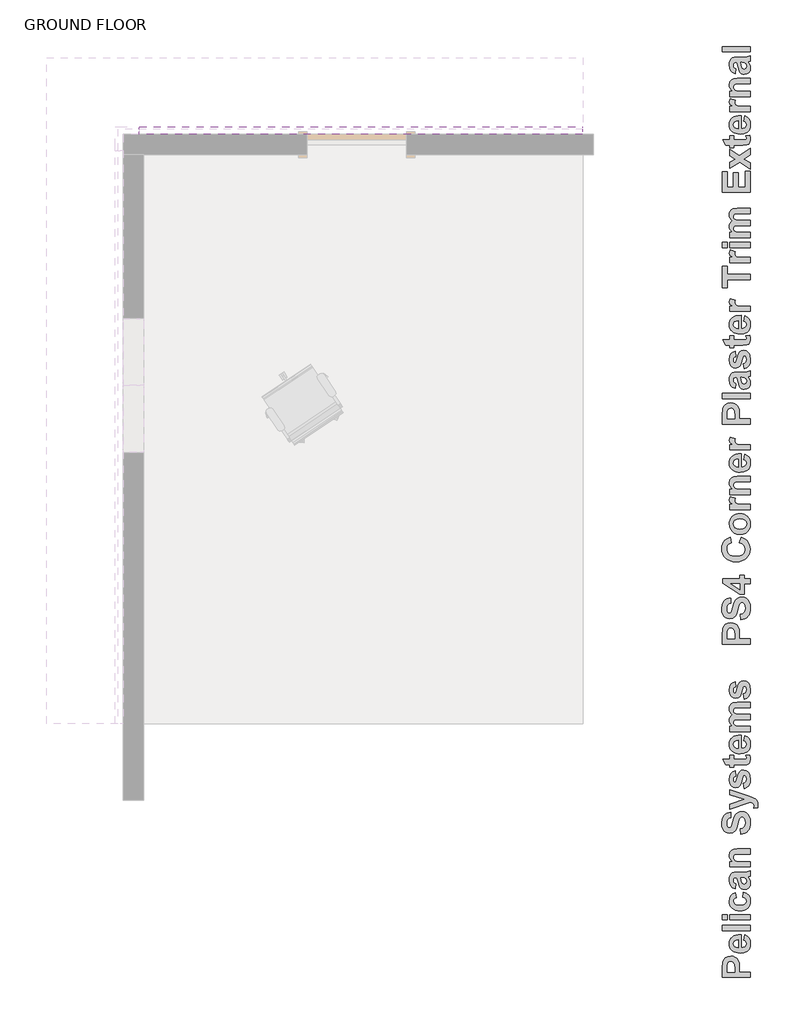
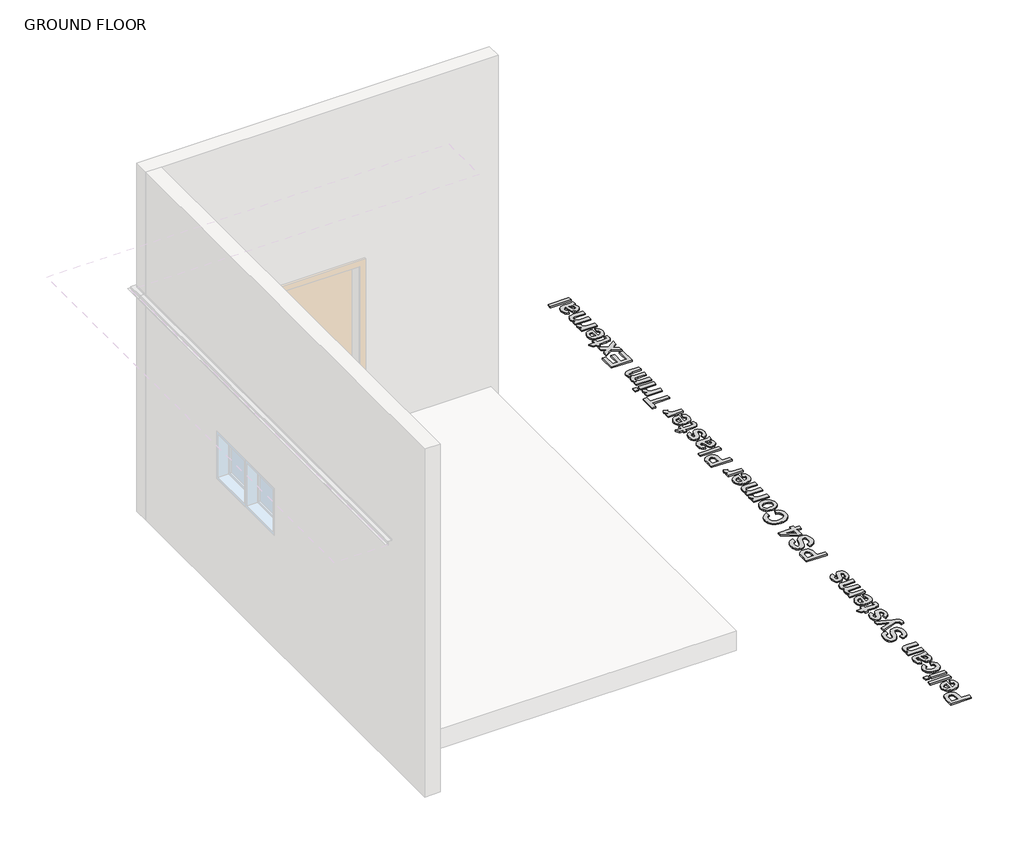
# One storey, part 2 of 2: 2 proxies.
"""IFC4 building model written with IfcOpenShell, lengths in millimetres."""

from ifc_helpers import new_model, si_unit, frame, origin, origin_with_axes, place, context, project, spatial, polyline, outline, extrude, element, save

model = new_model("IFC4")

# Units and contexts
model_context = context("Model", 3, world=origin())
ifc_project = project(units=[si_unit("LENGTHUNIT", "METRE", prefix="MILLI")], contexts=[model_context])

# Site, building, storey
site = spatial("IfcSite", under=ifc_project)
building = spatial("IfcBuilding", under=site)
storey = spatial("IfcBuildingStorey", under=building, Name="GROUND FLOOR", Elevation=0.0)

# Proxies
placement = place(None, origin())
element("IfcBuildingElementProxy", 1, Name="600mm Arial", ObjectType="600mm Arial", at=placement, inside=storey, context=model_context, shape_type="SweptSolid", body=[
    extrude(outline(polyline([(133497.7515303, 57588.5596096), (133242.6866803, 57588.5596096), (133242.6866803, 57670.7345204), (133246.4822882, 57731.6540269), (133255.5363945, 57751.6995811), (133271.3118898, 57768.1867528), (133293.2236178, 57779.2177383), (133320.6864224, 57782.8947334), (133342.1711446, 57780.7359814), (133359.939334, 57774.2597255), (133374.1412335, 57764.4544051), (133384.9270859, 57752.3084599), (133396.9781409, 57725.2647537), (133400.5839684, 57671.1773413), (133400.5839684, 57637.1433906), (133497.7515303, 57637.1433906), (133497.7515303, 57588.5596096)]), holes=[polyline([(133287.2218129, 57637.1433906), (133356.0488359, 57637.1433906), (133356.0488359, 57667.3184733), (133352.253228, 57710.8730738), (133340.3286932, 57728.0798295), (133331.5434425, 57732.7531717), (133321.445544, 57734.3109525), (133309.3786739, 57732.1205704), (133299.6207986, 57725.5494243), (133292.6305541, 57715.6413062), (133288.8665763, 57703.4400083), (133287.2218129, 57663.7759059), (133287.2218129, 57637.1433906)])]), origin_with_axes(), (0.0, 0.0, 1.0), 15.0),
    extrude(outline(polyline([(133441.0704526, 57928.6460763), (133449.1677494, 57977.2298572), (133471.838599, 57965.4002126), (133488.3574008, 57948.256717), (133498.4394843, 57925.9733357), (133501.8001787, 57898.7240341), (133499.8193459, 57876.7213696), (133493.8768473, 57857.778914), (133483.9726829, 57841.8966673), (133470.1068529, 57829.0746294), (133441.4025682, 57815.6951116), (133406.0243397, 57811.2352723), (133384.1837794, 57812.7139779), (133364.8419942, 57817.1500946), (133347.9989842, 57824.5436224), (133333.6547494, 57834.8945615), (133322.196758, 57847.5070502), (133314.0124785, 57861.6852271), (133309.1019108, 57877.4290923), (133307.4650549, 57894.7386458), (133309.1454022, 57913.9736795), (133314.1864439, 57931.0657763), (133322.5881801, 57946.0149361), (133334.3506108, 57958.821159), (133349.5844412, 57969.0258089), (133368.4003766, 57976.17025), (133390.7984168, 57980.2544822), (133416.7785621, 57981.2785056), (133416.7785621, 57859.8190532), (133437.2432146, 57862.9346147), (133452.5837965, 57871.269137), (133462.1677064, 57883.5574176), (133465.362343, 57898.5342537), (133463.923175, 57908.7349499), (133459.6056711, 57917.1959925), (133452.0935305, 57923.8541213), (133441.0704526, 57928.6460763)]), holes=[polyline([(133388.4380232, 57932.6947247), (133369.2306658, 57929.7373135), (133355.2580842, 57921.8772422), (133346.7416891, 57910.4587885), (133343.9028907, 57896.8262301), (133346.8919319, 57882.4345502), (133355.8590555, 57870.763056), (133370.0135099, 57863.1085801), (133388.4380232, 57860.641435), (133388.4380232, 57932.6947247)])]), origin_with_axes(), (0.0, 0.0, 1.0), 15.0),
    extrude(outline(polyline([(133497.7515303, 58017.7163413), (133242.6866803, 58017.7163413), (133242.6866803, 58066.3001223), (133497.7515303, 58066.3001223), (133497.7515303, 58017.7163413)])), origin_with_axes(), (0.0, 0.0, 1.0), 15.0),
    extrude(outline(polyline([(133287.2218129, 58114.8839032), (133242.6866803, 58114.8839032), (133242.6866803, 58163.4676842), (133287.2218129, 58163.4676842), (133287.2218129, 58114.8839032)])), origin_with_axes(), (0.0, 0.0, 1.0), 15.0),
    extrude(outline(polyline([(133497.7515303, 58114.8839032), (133311.5137034, 58114.8839032), (133311.5137034, 58163.4676842), (133497.7515303, 58163.4676842), (133497.7515303, 58114.8839032)])), origin_with_axes(), (0.0, 0.0, 1.0), 15.0),
    extrude(outline(polyline([(133364.1461327, 58365.9001048), (133372.2434295, 58317.3163239), (133359.8839814, 58313.5918836), (133351.0196554, 58306.9732924), (133345.6820818, 58297.6977756), (133343.9028907, 58286.0025588), (133347.2398626, 58270.5987168), (133357.2507784, 58258.674182), (133375.0743204, 58251.0355211), (133401.8491711, 58248.4893008), (133431.5339877, 58251.1383189), (133451.0022932, 58259.0853729), (133461.7723306, 58271.4922661), (133465.362343, 58287.5208019), (133463.3142963, 58299.6588397), (133457.170156, 58309.3771774), (133446.0126503, 58316.6283699), (133428.9245073, 58321.3649723), (133437.0218041, 58369.9487532), (133465.1646551, 58359.3131436), (133485.4474348, 58341.9561451), (133497.7119927, 58317.7196072), (133501.8001787, 58286.4453797), (133500.1909991, 58267.6788663), (133495.3634604, 58250.9169084), (133487.3175624, 58236.1595059), (133476.0533052, 58223.4066587), (133461.9462959, 58213.1249105), (133445.3721415, 58205.7808046), (133426.3308419, 58201.3743411), (133404.8223972, 58199.9055199), (133383.0707964, 58201.3644567), (133363.8693696, 58205.741267), (133347.2181169, 58213.0359509), (133333.1170382, 58223.2485084), (133321.8942955, 58235.9519335), (133313.8780508, 58250.7192205), (133309.0683039, 58267.5503692), (133307.4650549, 58286.4453797), (133310.9680847, 58315.6873755), (133321.4771741, 58338.2554274), (133339.1504733, 58354.7821367), (133364.1461327, 58365.9001048)])), origin_with_axes(), (0.0, 0.0, 1.0), 15.0),
    extrude(outline(polyline([(133368.1947811, 58446.8730731), (133360.0974843, 58402.3379405), (133336.7544958, 58411.9930181), (133320.3701218, 58426.7879813), (133310.6913216, 58448.3517786), (133307.4650549, 58478.3133584), (133309.4182115, 58505.4045097), (133315.2776812, 58524.5565145), (133324.1340996, 58537.4932114), (133335.0781023, 58545.9384389), (133352.0871702, 58550.5880586), (133379.1387839, 58552.1379318), (133436.5789832, 58552.1379318), (133472.7637784, 58554.6999671), (133497.7515303, 58564.283877), (133497.7515303, 58515.7000961), (133482.3160583, 58511.1453666), (133476.1798255, 58509.4373431), (133495.3792754, 58483.437429), (133500.1949529, 58469.1248243), (133501.8001787, 58453.8949477), (133497.9017731, 58429.1206987), (133486.2065563, 58410.2138269), (133468.5648872, 58398.2339395), (133446.8271245, 58394.2406437), (133431.9293636, 58396.0198349), (133418.7396262, 58401.3574085), (133407.8430685, 58409.9054337), (133399.8248469, 58421.31598), (133388.3747631, 58458.3231569), (133376.292078, 58503.5541508), (133371.1680073, 58503.5541508), (133358.5476111, 58502.0438152), (133350.1656437, 58497.5128083), (133345.4685789, 58488.8066327), (133343.9028907, 58474.770791), (133345.2471684, 58464.6966151), (133349.2800018, 58457.1212144), (133368.1947811, 58446.8730731)]), holes=[polyline([(133412.7299137, 58503.5541508), (133419.4671177, 58476.1625139), (133427.1532236, 58451.6175829), (133434.064393, 58445.0227142), (133442.6519558, 58442.8244246), (133451.2632412, 58444.5878008), (133458.625139, 58449.8779293), (133463.678042, 58457.8882434), (133465.362343, 58467.8121766), (133463.401279, 58479.7208963), (133457.5180867, 58491.0286448), (133442.9682565, 58501.7828672), (133421.5230719, 58503.5541508), (133412.7299137, 58503.5541508)])]), origin_with_axes(), (0.0, 0.0, 1.0), 15.0),
    extrude(outline(polyline([(133497.7515303, 58766.7162977), (133497.7515303, 58718.1325167), (133402.0389515, 58718.1325167), (133362.6911497, 58715.0960304), (133348.8371809, 58705.1641898), (133343.9028907, 58688.6532954), (133345.6662668, 58676.8948185), (133350.9563953, 58666.4173592), (133359.1643974, 58658.130282), (133369.6813942, 58652.9429512), (133412.7931738, 58649.3054937), (133497.7515303, 58649.3054937), (133497.7515303, 58600.7217127), (133311.5137034, 58600.7217127), (133311.5137034, 58649.3054937), (133338.3359991, 58649.3054937), (133324.829961, 58661.597728), (133315.182791, 58675.3844829), (133309.3944889, 58690.6657584), (133307.4650549, 58707.4415545), (133313.3482472, 58735.6555731), (133328.3408983, 58755.0131733), (133348.9953312, 58764.1542623), (133382.11201, 58766.7162977), (133497.7515303, 58766.7162977)])), origin_with_axes(), (0.0, 0.0, 1.0), 15.0),
    extrude(outline(polyline([(133412.7299137, 58900.3216953), (133408.6812653, 58948.9054762), (133430.4111204, 58955.9906109), (133445.4986618, 58967.8835156), (133454.3234501, 58984.6632655), (133457.2650462, 59006.4089357), (133454.6634733, 59028.9769876), (133446.8587546, 59045.1873963), (133435.5747286, 59054.9610866), (133422.535234, 59058.2189834), (133407.3211724, 59052.8102421), (133396.4087998, 59033.8638327), (133385.5913173, 58991.7325852), (133374.410089, 58955.7692005), (133360.7300856, 58932.3945819), (133337.4345422, 58914.4128895), (133309.5526393, 58908.4189921), (133290.7643802, 58911.1708078), (133273.2413238, 58919.426255), (133258.3593779, 58932.8690329), (133247.4944503, 58951.1828409), (133240.8521365, 58974.0671935), (133238.6380319, 59001.2216049), (133244.1574784, 59043.1867946), (133251.0567865, 59059.7273421), (133260.7158178, 59073.3065247), (133272.6759364, 59083.9678337), (133286.4785063, 59091.7547605), (133302.1235276, 59096.6673051), (133319.6110002, 59098.7054675), (133319.6110002, 59050.1216865), (133302.918233, 59044.7524829), (133291.6816521, 59035.4769661), (133285.3002864, 59021.4411244), (133283.1731645, 59001.7909461), (133285.4347142, 58981.1048831), (133292.2193633, 58965.4796307), (133299.0198274, 58959.1219874), (133307.7813556, 58957.002773), (133316.0526178, 58958.932207), (133323.0270473, 58964.7205091), (133331.1955117, 58981.5239815), (133339.6328318, 59012.323758), (133348.410175, 59045.1953038), (133357.5987091, 59068.2140841), (133368.7245847, 59084.3454176), (133383.3139525, 59096.554623), (133401.5486854, 59104.240729), (133423.6106563, 59106.8027643), (133444.67628, 59103.7741855), (133464.3501809, 59094.6884491), (133480.8927053, 59080.0595437), (133492.5641995, 59060.4014579), (133499.4911839, 59035.5006886), (133501.8001787, 59005.1437331), (133500.3788027, 58982.4412534), (133496.1146744, 58962.5380345), (133489.007794, 58945.4340765), (133479.0581615, 58931.1293793), (133466.3843895, 58919.5250989), (133451.1050909, 58910.5223915), (133433.2202656, 58904.1212569), (133412.7299137, 58900.3216953)])), origin_with_axes(), (0.0, 0.0, 1.0), 15.0),
    extrude(outline(polyline([(133311.5137034, 59127.0460064), (133311.5137034, 59175.6297873), (133443.3478173, 59218.1405956), (133311.5137034, 59260.651404), (133311.5137034, 59309.2351849), (133489.9705342, 59246.228094), (133523.118843, 59234.5249697), (133546.7148721, 59222.9799957), (133559.9362395, 59210.3595995), (133567.8121259, 59192.804913), (133570.6272018, 59169.3037742), (133567.843756, 59143.2406), (133531.8487412, 59139.1919516), (133534.189366, 59158.4862917), (133531.6194232, 59172.2532778), (133523.9095947, 59181.9241704), (133497.7515303, 59193.5956646), (133311.5137034, 59127.0460064)])), origin_with_axes(), (0.0, 0.0, 1.0), 15.0),
    extrude(outline(polyline([(133445.119101, 59317.3324818), (133437.0218041, 59365.9162627), (133449.2626396, 59370.5421598), (133458.150688, 59378.3468785), (133463.5594293, 59389.5992744), (133465.362343, 59404.568203), (133463.6385044, 59420.8102418), (133458.4669887, 59432.465921), (133452.836837, 59437.2104308), (133445.5619219, 59438.7919341), (133436.452463, 59435.4391472), (133430.0631897, 59419.5608542), (133417.6325739, 59372.6376517), (133406.2773803, 59346.7484429), (133388.2956879, 59330.7594447), (133364.4624334, 59325.4297786), (133342.2739423, 59330.0003231), (133323.9126891, 59343.7119566), (133311.5769635, 59367.03913), (133307.4650549, 59400.4562945), (133310.7862118, 59432.3235857), (133320.7496825, 59454.7967474), (133337.2289468, 59469.8052136), (133360.0974843, 59479.2784183), (133368.1947811, 59430.6946373), (133357.8043045, 59427.1204399), (133350.1656437, 59421.3321379), (133345.4685789, 59412.9818005), (133343.9028907, 59401.7214971), (133345.2313534, 59387.8833433), (133349.2167417, 59378.6315491), (133359.0853222, 59374.0135595), (133367.8784805, 59378.6315491), (133381.4794087, 59421.6168084), (133391.3005441, 59452.8435908), (133403.1776338, 59472.9524051), (133418.8503314, 59483.7698876), (133439.6787297, 59487.3757151), (133463.3775564, 59482.1488467), (133483.4863707, 59466.4682416), (133491.4986617, 59454.7591867), (133497.2217267, 59440.5394953), (133501.8001787, 59404.568203), (133497.9887558, 59371.2538363), (133486.5544871, 59345.7046507), (133468.5727947, 59327.778311), (133445.119101, 59317.3324818)])), origin_with_axes(), (0.0, 0.0, 1.0), 15.0),
    extrude(outline(polyline([(133311.5137034, 59620.9811127), (133347.9515391, 59620.9811127), (133347.9515391, 59584.543277), (133427.8490851, 59584.543277), (133456.0947338, 59585.6503293), (133462.7370476, 59590.6795097), (133465.362343, 59600.2317896), (133460.6810933, 59623.0054369), (133495.2211251, 59625.0297611), (133500.1554153, 59606.2889472), (133501.8001787, 59585.2391384), (133497.2454493, 59560.6942074), (133485.4790648, 59544.6577641), (133465.9316842, 59537.5409993), (133430.5692707, 59535.959496), (133347.9515391, 59535.959496), (133347.9515391, 59511.6676056), (133311.5137034, 59511.6676056), (133311.5137034, 59535.959496), (133275.0758676, 59535.959496), (133246.7353288, 59584.543277), (133311.5137034, 59584.543277), (133311.5137034, 59620.9811127)])), origin_with_axes(), (0.0, 0.0, 1.0), 15.0),
    extrude(outline(polyline([(133441.0704526, 59754.5865103), (133449.1677494, 59803.1702913), (133471.838599, 59791.3406467), (133488.3574008, 59774.1971511), (133498.4394843, 59751.9137698), (133501.8001787, 59724.6644681), (133499.8193459, 59702.6618037), (133493.8768473, 59683.7193481), (133483.9726829, 59667.8371013), (133470.1068529, 59655.0150634), (133441.4025682, 59641.6355456), (133406.0243397, 59637.1757063), (133384.1837794, 59638.6544119), (133364.8419942, 59643.0905286), (133347.9989842, 59650.4840565), (133333.6547494, 59660.8349955), (133322.196758, 59673.4474842), (133314.0124785, 59687.6256612), (133309.1019108, 59703.3695264), (133307.4650549, 59720.6790799), (133309.1454022, 59739.9141136), (133314.1864439, 59757.0062103), (133322.5881801, 59771.9553701), (133334.3506108, 59784.761593), (133349.5844412, 59794.966243), (133368.4003766, 59802.1106841), (133390.7984168, 59806.1949163), (133416.7785621, 59807.2189397), (133416.7785621, 59685.7594873), (133437.2432146, 59688.8750488), (133452.5837965, 59697.2095711), (133462.1677064, 59709.4978516), (133465.362343, 59724.4746877), (133463.923175, 59734.6753839), (133459.6056711, 59743.1364265), (133452.0935305, 59749.7945554), (133441.0704526, 59754.5865103)]), holes=[polyline([(133388.4380232, 59758.6351587), (133369.2306658, 59755.6777476), (133355.2580842, 59747.8176762), (133346.7416891, 59736.3992225), (133343.9028907, 59722.7666642), (133346.8919319, 59708.3749843), (133355.8590555, 59696.70349), (133370.0135099, 59689.0490141), (133388.4380232, 59686.581869), (133388.4380232, 59758.6351587)])]), origin_with_axes(), (0.0, 0.0, 1.0), 15.0),
    extrude(outline(polyline([(133311.5137034, 59839.608127), (133311.5137034, 59888.1919079), (133336.4381951, 59888.1919079), (133323.7624463, 59900.1520265), (133314.70834, 59913.1954749), (133309.2758762, 59927.322253), (133307.4650549, 59942.5323608), (133309.2442461, 59958.1813358), (133314.5818197, 59971.6003912), (133323.5252208, 59982.805342), (133336.1218945, 59991.8120032), (133323.5252208, 60004.2505266), (133314.5818197, 60017.6537669), (133309.2442461, 60032.0059092), (133307.4650549, 60047.2911385), (133309.5447318, 60065.7472819), (133315.7837622, 60081.1353088), (133326.0556261, 60093.249624), (133340.233803, 60101.8846319), (133355.8116104, 60105.5853496), (133378.7592231, 60106.8189222), (133497.7515303, 60106.8189222), (133497.7515303, 60058.2351412), (133390.5256075, 60058.2351412), (133367.5779948, 60057.0015687), (133354.5305927, 60053.300851), (133346.5598162, 60044.9188836), (133343.9028907, 60032.9310887), (133345.4923015, 60023.228566), (133350.2605339, 60014.1111996), (133358.0968826, 60006.5199838), (133368.8906426, 60001.3959131), (133407.6691031, 59997.5054151), (133497.7515303, 59997.5054151), (133497.7515303, 59948.9216341), (133394.9538167, 59948.9216341), (133359.6230333, 59946.3912289), (133347.7933887, 59938.5786026), (133343.9028907, 59924.1869227), (133345.4448564, 59913.7964461), (133350.0707535, 59904.5130218), (133357.6145241, 59897.0166963), (133367.9101105, 59891.9875158), (133406.5936809, 59888.1919079), (133497.7515303, 59888.1919079), (133497.7515303, 59839.608127), (133311.5137034, 59839.608127)])), origin_with_axes(), (0.0, 0.0, 1.0), 15.0),
    extrude(outline(polyline([(133445.119101, 60135.1594611), (133437.0218041, 60183.743242), (133449.2626396, 60188.3691391), (133458.150688, 60196.1738579), (133463.5594293, 60207.4262537), (133465.362343, 60222.3951823), (133463.6385044, 60238.6372211), (133458.4669887, 60250.2929003), (133452.836837, 60255.0374102), (133445.5619219, 60256.6189135), (133436.452463, 60253.2661265), (133430.0631897, 60237.3878335), (133417.6325739, 60190.464631), (133406.2773803, 60164.5754222), (133388.2956879, 60148.586424), (133364.4624334, 60143.2567579), (133342.2739423, 60147.8273024), (133323.9126891, 60161.5389359), (133311.5769635, 60184.8661094), (133307.4650549, 60218.2832738), (133310.7862118, 60250.150565), (133320.7496825, 60272.6237267), (133337.2289468, 60287.6321929), (133360.0974843, 60297.1053976), (133368.1947811, 60248.5216166), (133357.8043045, 60244.9474192), (133350.1656437, 60239.1591172), (133345.4685789, 60230.8087798), (133343.9028907, 60219.5484764), (133345.2313534, 60205.7103227), (133349.2167417, 60196.4585285), (133359.0853222, 60191.8405389), (133367.8784805, 60196.4585285), (133381.4794087, 60239.4437878), (133391.3005441, 60270.6705702), (133403.1776338, 60290.7793844), (133418.8503314, 60301.5968669), (133439.6787297, 60305.2026944), (133463.3775564, 60299.9758261), (133483.4863707, 60284.295221), (133491.4986617, 60272.586166), (133497.2217267, 60258.3664746), (133501.8001787, 60222.3951823), (133497.9887558, 60189.0808156), (133486.5544871, 60163.53163), (133468.5727947, 60145.6052903), (133445.119101, 60135.1594611)])), origin_with_axes(), (0.0, 0.0, 1.0), 15.0),
    extrude(outline(polyline([(133497.7515303, 60641.2405127), (133242.6866803, 60641.2405127), (133242.6866803, 60723.4154234), (133246.4822882, 60784.33493), (133255.5363945, 60804.3804841), (133271.3118898, 60820.8676559), (133293.2236178, 60831.8986413), (133320.6864224, 60835.5756365), (133342.1711446, 60833.4168845), (133359.939334, 60826.9406285), (133374.1412335, 60817.1353081), (133384.9270859, 60804.9893629), (133396.9781409, 60777.9456567), (133400.5839684, 60723.8582443), (133400.5839684, 60689.8242936), (133497.7515303, 60689.8242936), (133497.7515303, 60641.2405127)]), holes=[polyline([(133287.2218129, 60689.8242936), (133356.0488359, 60689.8242936), (133356.0488359, 60719.9993763), (133352.253228, 60763.5539768), (133340.3286932, 60780.7607326), (133331.5434425, 60785.4340748), (133321.445544, 60786.9918555), (133309.3786739, 60784.8014735), (133299.6207986, 60778.2303273), (133292.6305541, 60768.3222092), (133288.8665763, 60756.1209114), (133287.2218129, 60716.4568089), (133287.2218129, 60689.8242936)])]), origin_with_axes(), (0.0, 0.0, 1.0), 15.0),
    extrude(outline(polyline([(133412.7299137, 60863.9161753), (133408.6812653, 60912.4999563), (133430.4111204, 60919.585091), (133445.4986618, 60931.4779957), (133454.3234501, 60948.2577456), (133457.2650462, 60970.0034158), (133454.6634733, 60992.5714677), (133446.8587546, 61008.7818764), (133435.5747286, 61018.5555667), (133422.535234, 61021.8134634), (133407.3211724, 61016.4047222), (133396.4087998, 60997.4583128), (133385.5913173, 60955.3270653), (133374.410089, 60919.3636806), (133360.7300856, 60895.989062), (133337.4345422, 60878.0073696), (133309.5526393, 60872.0134722), (133290.7643802, 60874.7652879), (133273.2413238, 60883.020735), (133258.3593779, 60896.463513), (133247.4944503, 60914.777321), (133240.8521365, 60937.6616736), (133238.6380319, 60964.816085), (133244.1574784, 61006.7812747), (133251.0567865, 61023.3218222), (133260.7158178, 61036.9010048), (133272.6759364, 61047.5623138), (133286.4785063, 61055.3492406), (133302.1235276, 61060.2617852), (133319.6110002, 61062.2999476), (133319.6110002, 61013.7161666), (133302.918233, 61008.3469629), (133291.6816521, 60999.0714462), (133285.3002864, 60985.0356045), (133283.1731645, 60965.3854262), (133285.4347142, 60944.6993632), (133292.2193633, 60929.0741107), (133299.0198274, 60922.7164675), (133307.7813556, 60920.5972531), (133316.0526178, 60922.5266871), (133323.0270473, 60928.3149892), (133331.1955117, 60945.1184616), (133339.6328318, 60975.9182381), (133348.410175, 61008.7897839), (133357.5987091, 61031.8085642), (133368.7245847, 61047.9398977), (133383.3139525, 61060.1491031), (133401.5486854, 61067.8352091), (133423.6106563, 61070.3972444), (133444.67628, 61067.3686656), (133464.3501809, 61058.2829292), (133480.8927053, 61043.6540238), (133492.5641995, 61023.995938), (133499.4911839, 60999.0951687), (133501.8001787, 60968.7382131), (133500.3788027, 60946.0357335), (133496.1146744, 60926.1325146), (133489.007794, 60909.0285566), (133479.0581615, 60894.7238594), (133466.3843895, 60883.119579), (133451.1050909, 60874.1168715), (133433.2202656, 60867.715737), (133412.7299137, 60863.9161753)])), origin_with_axes(), (0.0, 0.0, 1.0), 15.0),
    extrude(outline(polyline([(133497.7515303, 61191.8566968), (133445.119101, 61191.8566968), (133445.119101, 61094.6891349), (133404.8223972, 61094.6891349), (133246.7353288, 61198.3092302), (133246.7353288, 61240.4404777), (133404.6326168, 61240.4404777), (133404.6326168, 61272.829665), (133445.119101, 61272.829665), (133445.119101, 61240.4404777), (133497.7515303, 61240.4404777), (133497.7515303, 61191.8566968)]), holes=[polyline([(133404.6326168, 61191.8566968), (133321.7618446, 61191.8566968), (133404.6326168, 61137.579504), (133404.6326168, 61191.8566968)])]), origin_with_axes(), (0.0, 0.0, 1.0), 15.0),
    extrude(outline(polyline([(133400.5839684, 61568.3809991), (133416.7785621, 61616.9647801), (133452.5600739, 61601.6400132), (133466.4950948, 61591.1190626), (133477.7929589, 61578.6924005), (133492.7618875, 61548.3275375), (133497.7515303, 61510.7510194), (133495.6204547, 61486.4235451), (133489.2272276, 61464.365528), (133478.5718492, 61444.5769681), (133463.6543195, 61427.0578655), (133445.0400258, 61412.7215382), (133423.2943556, 61402.4813044), (133398.4173089, 61396.3371641), (133370.4088857, 61394.2891174), (133340.8743119, 61396.354956), (133314.8348603, 61402.5524721), (133292.2905309, 61412.8816654), (133273.2413238, 61427.3425361), (133258.1023836, 61445.1720087), (133247.2888549, 61465.6070081), (133240.8007377, 61488.6475341), (133238.6380319, 61514.2935867), (133240.4211769, 61536.7193033), (133245.7706117, 61556.9309153), (133254.6863365, 61574.9284227), (133267.1683512, 61590.7118255), (133287.6804488, 61606.0365924), (133315.5623518, 61616.9647801), (133323.6596486, 61568.3809991), (133306.8561762, 61560.9400262), (133294.022277, 61548.2326473), (133285.8854426, 61531.2393944), (133283.1731645, 61510.9407998), (133288.0995472, 61483.4938102), (133302.8786954, 61461.7560476), (133314.2556347, 61453.4946698), (133328.6809215, 61447.5936856), (133366.676538, 61442.8728983), (133406.7518312, 61447.4513503), (133421.7365749, 61453.1744154), (133433.3527165, 61461.1867064), (133448.2504775, 61482.2602377), (133453.2163978, 61508.8532154), (133450.0454837, 61528.9303996), (133440.5327414, 61546.0185427), (133424.20372, 61559.405968), (133400.5839684, 61568.3809991)])), origin_with_axes(), (0.0, 0.0, 1.0), 15.0),
    extrude(outline(polyline([(133401.9756913, 61645.305319), (133377.8814888, 61648.3022677), (133354.5622228, 61657.2931139), (133334.3427033, 61671.7717765), (133319.54774, 61691.2321744), (133310.4857262, 61714.4644577), (133307.4650549, 61740.2587763), (133309.1770322, 61760.2509547), (133314.3129642, 61778.3492829), (133322.8728507, 61794.553761), (133334.8566919, 61808.8643888), (133349.4579209, 61820.5576287), (133365.8699713, 61828.909943), (133384.0928429, 61833.9213315), (133404.1265358, 61835.5917943), (133424.3203559, 61833.9035396), (133442.7073085, 61828.8387753), (133459.2873935, 61820.3975015), (133474.0606111, 61808.5797182), (133486.1966719, 61794.2038533), (133494.8652868, 61778.0883349), (133500.0664558, 61760.2331628), (133501.8001787, 61740.638337), (133498.9139352, 61715.8640881), (133490.2552048, 61692.2759666), (133476.0137677, 61672.0327245), (133456.3794044, 61657.2931139), (133431.6130629, 61648.3022677), (133401.9756913, 61645.305319)]), holes=[polyline([(133404.6326168, 61693.8890999), (133430.6088083, 61697.2497944), (133449.7054605, 61707.3318778), (133461.4481224, 61722.3482515), (133465.362343, 61740.5118168), (133461.4481224, 61758.659567), (133449.7054605, 61773.6284956), (133430.5139181, 61783.6631339), (133404.2530561, 61787.0080134), (133378.5615352, 61783.6631339), (133359.5597732, 61773.6284956), (133347.8171113, 61758.659567), (133343.9028907, 61740.5118168), (133347.8171113, 61722.3482515), (133359.5597732, 61707.3318778), (133378.6564254, 61697.2497944), (133404.6326168, 61693.8890999)])]), origin_with_axes(), (0.0, 0.0, 1.0), 15.0),
    extrude(outline(polyline([(133497.7515303, 61920.613411), (133497.7515303, 61872.0296301), (133311.5137034, 61872.0296301), (133311.5137034, 61920.613411), (133337.4503572, 61920.613411), (133313.253357, 61940.0342714), (133307.4650549, 61959.6449121), (133310.0270903, 61974.8115286), (133317.7131962, 61989.440434), (133363.9563523, 61975.2701646), (133358.025715, 61963.5670403), (133356.0488359, 61952.7495578), (133361.5840974, 61935.6376922), (133369.341371, 61929.3907542), (133381.5426689, 61924.6304294), (133442.0193545, 61920.613411), (133497.7515303, 61920.613411)])), origin_with_axes(), (0.0, 0.0, 1.0), 15.0),
    extrude(outline(polyline([(133497.7515303, 62175.678261), (133497.7515303, 62127.09448), (133402.0389515, 62127.09448), (133362.6911497, 62124.0579937), (133348.8371809, 62114.1261531), (133343.9028907, 62097.6152588), (133345.6662668, 62085.8567819), (133350.9563953, 62075.3793226), (133359.1643974, 62067.0922454), (133369.6813942, 62061.9049146), (133412.7931738, 62058.267457), (133497.7515303, 62058.267457), (133497.7515303, 62009.6836761), (133311.5137034, 62009.6836761), (133311.5137034, 62058.267457), (133338.3359991, 62058.267457), (133324.829961, 62070.5596913), (133315.182791, 62084.3464462), (133309.3944889, 62099.6277217), (133307.4650549, 62116.4035178), (133313.3482472, 62144.6175365), (133328.3408983, 62163.9751367), (133348.9953312, 62173.1162257), (133382.11201, 62175.678261), (133497.7515303, 62175.678261)])), origin_with_axes(), (0.0, 0.0, 1.0), 15.0),
    extrude(outline(polyline([(133441.0704526, 62329.5269007), (133449.1677494, 62378.1106816), (133471.838599, 62366.281037), (133488.3574008, 62349.1375414), (133498.4394843, 62326.8541601), (133501.8001787, 62299.6048585), (133499.8193459, 62277.602194), (133493.8768473, 62258.6597384), (133483.9726829, 62242.7774917), (133470.1068529, 62229.9554538), (133441.4025682, 62216.575936), (133406.0243397, 62212.1160967), (133384.1837794, 62213.5948023), (133364.8419942, 62218.030919), (133347.9989842, 62225.4244469), (133333.6547494, 62235.7753859), (133322.196758, 62248.3878746), (133314.0124785, 62262.5660515), (133309.1019108, 62278.3099168), (133307.4650549, 62295.6194702), (133309.1454022, 62314.8545039), (133314.1864439, 62331.9466007), (133322.5881801, 62346.8957605), (133334.3506108, 62359.7019834), (133349.5844412, 62369.9066333), (133368.4003766, 62377.0510744), (133390.7984168, 62381.1353067), (133416.7785621, 62382.15933), (133416.7785621, 62260.6998777), (133437.2432146, 62263.8154391), (133452.5837965, 62272.1499615), (133462.1677064, 62284.438242), (133465.362343, 62299.4150781), (133463.923175, 62309.6157743), (133459.6056711, 62318.0768169), (133452.0935305, 62324.7349457), (133441.0704526, 62329.5269007)]), holes=[polyline([(133388.4380232, 62333.5755491), (133369.2306658, 62330.6181379), (133355.2580842, 62322.7580666), (133346.7416891, 62311.3396129), (133343.9028907, 62297.7070546), (133346.8919319, 62283.3153747), (133355.8590555, 62271.6438804), (133370.0135099, 62263.9894045), (133388.4380232, 62261.5222594), (133388.4380232, 62333.5755491)])]), origin_with_axes(), (0.0, 0.0, 1.0), 15.0),
    extrude(outline(polyline([(133497.7515303, 62467.1809467), (133497.7515303, 62418.5971658), (133311.5137034, 62418.5971658), (133311.5137034, 62467.1809467), (133337.4503572, 62467.1809467), (133313.253357, 62486.6018071), (133307.4650549, 62506.2124478), (133310.0270903, 62521.3790643), (133317.7131962, 62536.0079697), (133363.9563523, 62521.8377003), (133358.025715, 62510.134576), (133356.0488359, 62499.3170935), (133361.5840974, 62482.2052279), (133369.341371, 62475.9582899), (133381.5426689, 62471.197965), (133442.0193545, 62467.1809467), (133497.7515303, 62467.1809467)])), origin_with_axes(), (0.0, 0.0, 1.0), 15.0),
    extrude(outline(polyline([(133497.7515303, 62653.4187737), (133242.6866803, 62653.4187737), (133242.6866803, 62735.5936844), (133246.4822882, 62796.513191), (133255.5363945, 62816.5587452), (133271.3118898, 62833.0459169), (133293.2236178, 62844.0769023), (133320.6864224, 62847.7538975), (133342.1711446, 62845.5951455), (133359.939334, 62839.1188895), (133374.1412335, 62829.3135692), (133384.9270859, 62817.1676239), (133396.9781409, 62790.1239177), (133400.5839684, 62736.0365053), (133400.5839684, 62702.0025546), (133497.7515303, 62702.0025546), (133497.7515303, 62653.4187737)]), holes=[polyline([(133287.2218129, 62702.0025546), (133356.0488359, 62702.0025546), (133356.0488359, 62732.1776373), (133352.253228, 62775.7322378), (133340.3286932, 62792.9389936), (133331.5434425, 62797.6123358), (133321.445544, 62799.1701165), (133309.3786739, 62796.9797345), (133299.6207986, 62790.4085883), (133292.6305541, 62780.5004702), (133288.8665763, 62768.2991724), (133287.2218129, 62728.63507), (133287.2218129, 62702.0025546)])]), origin_with_axes(), (0.0, 0.0, 1.0), 15.0),
    extrude(outline(polyline([(133497.7515303, 62888.2403816), (133242.6866803, 62888.2403816), (133242.6866803, 62936.8241626), (133497.7515303, 62936.8241626), (133497.7515303, 62888.2403816)])), origin_with_axes(), (0.0, 0.0, 1.0), 15.0),
    extrude(outline(polyline([(133368.1947811, 63025.8944276), (133360.0974843, 62981.3592951), (133336.7544958, 62991.0143727), (133320.3701218, 63005.8093359), (133310.6913216, 63027.3731332), (133307.4650549, 63057.334713), (133309.4182115, 63084.4258642), (133315.2776812, 63103.577869), (133324.1340996, 63116.5145659), (133335.0781023, 63124.9597935), (133352.0871702, 63129.6094131), (133379.1387839, 63131.1592864), (133436.5789832, 63131.1592864), (133472.7637784, 63133.7213217), (133497.7515303, 63143.3052316), (133497.7515303, 63094.7214506), (133482.3160583, 63090.1667212), (133476.1798255, 63088.4586976), (133495.3792754, 63062.4587836), (133500.1949529, 63048.1461789), (133501.8001787, 63032.9163022), (133497.9017731, 63008.1420532), (133486.2065563, 62989.2351815), (133468.5648872, 62977.2552941), (133446.8271245, 62973.2619983), (133431.9293636, 62975.0411895), (133418.7396262, 62980.3787631), (133407.8430685, 62988.9267883), (133399.8248469, 63000.3373345), (133388.3747631, 63037.3445114), (133376.292078, 63082.5755054), (133371.1680073, 63082.5755054), (133358.5476111, 63081.0651698), (133350.1656437, 63076.5341629), (133345.4685789, 63067.8279873), (133343.9028907, 63053.7921456), (133345.2471684, 63043.7179697), (133349.2800018, 63036.1425689), (133368.1947811, 63025.8944276)]), holes=[polyline([(133412.7299137, 63082.5755054), (133419.4671177, 63055.1838685), (133427.1532236, 63030.6389375), (133434.064393, 63024.0440688), (133442.6519558, 63021.8457792), (133451.2632412, 63023.6091554), (133458.625139, 63028.8992839), (133463.678042, 63036.909598), (133465.362343, 63046.8335311), (133463.401279, 63058.7422509), (133457.5180867, 63070.0499994), (133442.9682565, 63080.8042217), (133421.5230719, 63082.5755054), (133412.7299137, 63082.5755054)])]), origin_with_axes(), (0.0, 0.0, 1.0), 15.0),
    extrude(outline(polyline([(133445.119101, 63159.4998252), (133437.0218041, 63208.0836062), (133449.2626396, 63212.7095033), (133458.150688, 63220.514222), (133463.5594293, 63231.7666179), (133465.362343, 63246.7355465), (133463.6385044, 63262.9775853), (133458.4669887, 63274.6332645), (133452.836837, 63279.3777743), (133445.5619219, 63280.9592776), (133436.452463, 63277.6064907), (133430.0631897, 63261.7281977), (133417.6325739, 63214.8049952), (133406.2773803, 63188.9157864), (133388.2956879, 63172.9267881), (133364.4624334, 63167.5971221), (133342.2739423, 63172.1676666), (133323.9126891, 63185.8793001), (133311.5769635, 63209.2064735), (133307.4650549, 63242.623638), (133310.7862118, 63274.4909292), (133320.7496825, 63296.9640909), (133337.2289468, 63311.9725571), (133360.0974843, 63321.4457617), (133368.1947811, 63272.8619808), (133357.8043045, 63269.2877834), (133350.1656437, 63263.4994813), (133345.4685789, 63255.149144), (133343.9028907, 63243.8888406), (133345.2313534, 63230.0506868), (133349.2167417, 63220.7988926), (133359.0853222, 63216.180903), (133367.8784805, 63220.7988926), (133381.4794087, 63263.7841519), (133391.3005441, 63295.0109343), (133403.1776338, 63315.1197486), (133418.8503314, 63325.9372311), (133439.6787297, 63329.5430586), (133463.3775564, 63324.3161902), (133483.4863707, 63308.6355851), (133491.4986617, 63296.9265302), (133497.2217267, 63282.7068388), (133501.8001787, 63246.7355465), (133497.9887558, 63213.4211798), (133486.5544871, 63187.8719942), (133468.5727947, 63169.9456544), (133445.119101, 63159.4998252)])), origin_with_axes(), (0.0, 0.0, 1.0), 15.0),
    extrude(outline(polyline([(133311.5137034, 63463.1484562), (133347.9515391, 63463.1484562), (133347.9515391, 63426.7106205), (133427.8490851, 63426.7106205), (133456.0947338, 63427.8176728), (133462.7370476, 63432.8468532), (133465.362343, 63442.3991331), (133460.6810933, 63465.1727804), (133495.2211251, 63467.1971046), (133500.1554153, 63448.4562907), (133501.8001787, 63427.4064819), (133497.2454493, 63402.8615509), (133485.4790648, 63386.8251076), (133465.9316842, 63379.7083428), (133430.5692707, 63378.1268395), (133347.9515391, 63378.1268395), (133347.9515391, 63353.834949), (133311.5137034, 63353.834949), (133311.5137034, 63378.1268395), (133275.0758676, 63378.1268395), (133246.7353288, 63426.7106205), (133311.5137034, 63426.7106205), (133311.5137034, 63463.1484562)])), origin_with_axes(), (0.0, 0.0, 1.0), 15.0),
    extrude(outline(polyline([(133441.0704526, 63596.7538538), (133449.1677494, 63645.3376347), (133471.838599, 63633.5079902), (133488.3574008, 63616.3644945), (133498.4394843, 63594.0811132), (133501.8001787, 63566.8318116), (133499.8193459, 63544.8291472), (133493.8768473, 63525.8866915), (133483.9726829, 63510.0044448), (133470.1068529, 63497.1824069), (133441.4025682, 63483.8028891), (133406.0243397, 63479.3430498), (133384.1837794, 63480.8217554), (133364.8419942, 63485.2578721), (133347.9989842, 63492.6514), (133333.6547494, 63503.002339), (133322.196758, 63515.6148277), (133314.0124785, 63529.7930047), (133309.1019108, 63545.5368699), (133307.4650549, 63562.8464233), (133309.1454022, 63582.0814571), (133314.1864439, 63599.1735538), (133322.5881801, 63614.1227136), (133334.3506108, 63626.9289365), (133349.5844412, 63637.1335864), (133368.4003766, 63644.2780275), (133390.7984168, 63648.3622598), (133416.7785621, 63649.3862832), (133416.7785621, 63527.9268308), (133437.2432146, 63531.0423923), (133452.5837965, 63539.3769146), (133462.1677064, 63551.6651951), (133465.362343, 63566.6420312), (133463.923175, 63576.8427274), (133459.6056711, 63585.30377), (133452.0935305, 63591.9618988), (133441.0704526, 63596.7538538)]), holes=[polyline([(133388.4380232, 63600.8025022), (133369.2306658, 63597.8450911), (133355.2580842, 63589.9850197), (133346.7416891, 63578.566566), (133343.9028907, 63564.9340077), (133346.8919319, 63550.5423278), (133355.8590555, 63538.8708335), (133370.0135099, 63531.2163576), (133388.4380232, 63528.7492125), (133388.4380232, 63600.8025022)])]), origin_with_axes(), (0.0, 0.0, 1.0), 15.0),
    extrude(outline(polyline([(133497.7515303, 63734.4078998), (133497.7515303, 63685.8241189), (133311.5137034, 63685.8241189), (133311.5137034, 63734.4078998), (133337.4503572, 63734.4078998), (133313.253357, 63753.8287602), (133307.4650549, 63773.4394009), (133310.0270903, 63788.6060174), (133317.7131962, 63803.2349228), (133363.9563523, 63789.0646534), (133358.025715, 63777.3615291), (133356.0488359, 63766.5440466), (133361.5840974, 63749.432181), (133369.341371, 63743.1852431), (133381.5426689, 63738.4249182), (133442.0193545, 63734.4078998), (133497.7515303, 63734.4078998)])), origin_with_axes(), (0.0, 0.0, 1.0), 15.0),
    extrude(outline(polyline([(133497.7515303, 63977.3268046), (133287.2218129, 63977.3268046), (133287.2218129, 63904.4511331), (133242.6866803, 63904.4511331), (133242.6866803, 64098.7862569), (133287.2218129, 64098.7862569), (133287.2218129, 64025.9105855), (133497.7515303, 64025.9105855), (133497.7515303, 63977.3268046)])), origin_with_axes(), (0.0, 0.0, 1.0), 15.0),
    extrude(outline(polyline([(133497.7515303, 64179.7592252), (133497.7515303, 64131.1754442), (133311.5137034, 64131.1754442), (133311.5137034, 64179.7592252), (133337.4503572, 64179.7592252), (133313.253357, 64199.1800856), (133307.4650549, 64218.7907263), (133310.0270903, 64233.9573428), (133317.7131962, 64248.5862482), (133363.9563523, 64234.4159788), (133358.025715, 64222.7128545), (133356.0488359, 64211.895372), (133361.5840974, 64194.7835064), (133369.341371, 64188.5365684), (133381.5426689, 64183.7762435), (133442.0193545, 64179.7592252), (133497.7515303, 64179.7592252)])), origin_with_axes(), (0.0, 0.0, 1.0), 15.0),
    extrude(outline(polyline([(133287.2218129, 64268.8294903), (133242.6866803, 64268.8294903), (133242.6866803, 64317.4132712), (133287.2218129, 64317.4132712), (133287.2218129, 64268.8294903)])), origin_with_axes(), (0.0, 0.0, 1.0), 15.0),
    extrude(outline(polyline([(133497.7515303, 64268.8294903), (133311.5137034, 64268.8294903), (133311.5137034, 64317.4132712), (133497.7515303, 64317.4132712), (133497.7515303, 64268.8294903)])), origin_with_axes(), (0.0, 0.0, 1.0), 15.0),
    extrude(outline(polyline([(133311.5137034, 64361.9484038), (133311.5137034, 64410.5321847), (133336.4381951, 64410.5321847), (133323.7624463, 64422.4923033), (133314.70834, 64435.5357517), (133309.2758762, 64449.6625298), (133307.4650549, 64464.8726376), (133309.2442461, 64480.5216126), (133314.5818197, 64493.940668), (133323.5252208, 64505.1456188), (133336.1218945, 64514.15228), (133323.5252208, 64526.5908034), (133314.5818197, 64539.9940437), (133309.2442461, 64554.346186), (133307.4650549, 64569.6314153), (133309.5447318, 64588.0875586), (133315.7837622, 64603.4755856), (133326.0556261, 64615.5899008), (133340.233803, 64624.2249087), (133355.8116104, 64627.9256264), (133378.7592231, 64629.159199), (133497.7515303, 64629.159199), (133497.7515303, 64580.575418), (133390.5256075, 64580.575418), (133367.5779948, 64579.3418455), (133354.5305927, 64575.6411278), (133346.5598162, 64567.2591604), (133343.9028907, 64555.2713655), (133345.4923015, 64545.5688428), (133350.2605339, 64536.4514764), (133358.0968826, 64528.8602606), (133368.8906426, 64523.7361899), (133407.6691031, 64519.8456919), (133497.7515303, 64519.8456919), (133497.7515303, 64471.2619109), (133394.9538167, 64471.2619109), (133359.6230333, 64468.7315056), (133347.7933887, 64460.9188794), (133343.9028907, 64446.5271995), (133345.4448564, 64436.1367229), (133350.0707535, 64426.8532986), (133357.6145241, 64419.3569731), (133367.9101105, 64414.3277926), (133406.5936809, 64410.5321847), (133497.7515303, 64410.5321847), (133497.7515303, 64361.9484038), (133311.5137034, 64361.9484038)])), origin_with_axes(), (0.0, 0.0, 1.0), 15.0),
    extrude(outline(polyline([(133497.7515303, 64774.9105418), (133242.6866803, 64774.9105418), (133242.6866803, 64965.1970172), (133287.2218129, 64965.1970172), (133287.2218129, 64823.4943228), (133343.9028907, 64823.4943228), (133343.9028907, 64957.0997204), (133388.4380232, 64957.0997204), (133388.4380232, 64823.4943228), (133453.2163978, 64823.4943228), (133453.2163978, 64969.2456656), (133497.7515303, 64969.2456656), (133497.7515303, 64774.9105418)])), origin_with_axes(), (0.0, 0.0, 1.0), 15.0),
    extrude(outline(polyline([(133497.7515303, 64987.4645835), (133401.8491711, 65053.2551202), (133311.5137034, 64995.5618803), (133311.5137034, 65053.3183803), (133362.6911497, 65081.4058787), (133311.5137034, 65111.8972621), (133311.5137034, 65169.6537621), (133399.6983266, 65110.2524986), (133497.7515303, 65177.7510589), (133497.7515303, 65119.9945589), (133440.0582904, 65081.4058787), (133497.7515303, 65045.2210835), (133497.7515303, 64987.4645835)])), origin_with_axes(), (0.0, 0.0, 1.0), 15.0),
    extrude(outline(polyline([(133311.5137034, 65293.1375386), (133347.9515391, 65293.1375386), (133347.9515391, 65256.6997029), (133427.8490851, 65256.6997029), (133456.0947338, 65257.8067552), (133462.7370476, 65262.8359357), (133465.362343, 65272.3882155), (133460.6810933, 65295.1618629), (133495.2211251, 65297.1861871), (133500.1554153, 65278.4453731), (133501.8001787, 65257.3955644), (133497.2454493, 65232.8506334), (133485.4790648, 65216.8141901), (133465.9316842, 65209.6974253), (133430.5692707, 65208.115922), (133347.9515391, 65208.115922), (133347.9515391, 65183.8240315), (133311.5137034, 65183.8240315), (133311.5137034, 65208.115922), (133275.0758676, 65208.115922), (133246.7353288, 65256.6997029), (133311.5137034, 65256.6997029), (133311.5137034, 65293.1375386)])), origin_with_axes(), (0.0, 0.0, 1.0), 15.0),
    extrude(outline(polyline([(133441.0704526, 65426.7429363), (133449.1677494, 65475.3267172), (133471.838599, 65463.4970726), (133488.3574008, 65446.353577), (133498.4394843, 65424.0701957), (133501.8001787, 65396.8208941), (133499.8193459, 65374.8182296), (133493.8768473, 65355.875774), (133483.9726829, 65339.9935273), (133470.1068529, 65327.1714894), (133441.4025682, 65313.7919716), (133406.0243397, 65309.3321323), (133384.1837794, 65310.8108379), (133364.8419942, 65315.2469546), (133347.9989842, 65322.6404824), (133333.6547494, 65332.9914215), (133322.196758, 65345.6039102), (133314.0124785, 65359.7820871), (133309.1019108, 65375.5259523), (133307.4650549, 65392.8355058), (133309.1454022, 65412.0705395), (133314.1864439, 65429.1626363), (133322.5881801, 65444.1117961), (133334.3506108, 65456.918019), (133349.5844412, 65467.1226689), (133368.4003766, 65474.26711), (133390.7984168, 65478.3513422), (133416.7785621, 65479.3753656), (133416.7785621, 65357.9159132), (133437.2432146, 65361.0314747), (133452.5837965, 65369.365997), (133462.1677064, 65381.6542776), (133465.362343, 65396.6311137), (133463.923175, 65406.8318099), (133459.6056711, 65415.2928525), (133452.0935305, 65421.9509813), (133441.0704526, 65426.7429363)]), holes=[polyline([(133388.4380232, 65430.7915847), (133369.2306658, 65427.8341735), (133355.2580842, 65419.9741022), (133346.7416891, 65408.5556485), (133343.9028907, 65394.9230901), (133346.8919319, 65380.5314102), (133355.8590555, 65368.859916), (133370.0135099, 65361.2054401), (133388.4380232, 65358.738295), (133388.4380232, 65430.7915847)])]), origin_with_axes(), (0.0, 0.0, 1.0), 15.0),
    extrude(outline(polyline([(133497.7515303, 65564.3969823), (133497.7515303, 65515.8132013), (133311.5137034, 65515.8132013), (133311.5137034, 65564.3969823), (133337.4503572, 65564.3969823), (133313.253357, 65583.8178426), (133307.4650549, 65603.4284834), (133310.0270903, 65618.5950999), (133317.7131962, 65633.2240053), (133363.9563523, 65619.0537359), (133358.025715, 65607.3506115), (133356.0488359, 65596.5331291), (133361.5840974, 65579.4212635), (133369.341371, 65573.1743255), (133381.5426689, 65568.4140006), (133442.0193545, 65564.3969823), (133497.7515303, 65564.3969823)])), origin_with_axes(), (0.0, 0.0, 1.0), 15.0),
    extrude(outline(polyline([(133497.7515303, 65819.4618323), (133497.7515303, 65770.8780513), (133402.0389515, 65770.8780513), (133362.6911497, 65767.841565), (133348.8371809, 65757.9097244), (133343.9028907, 65741.3988301), (133345.6662668, 65729.6403531), (133350.9563953, 65719.1628939), (133359.1643974, 65710.8758166), (133369.6813942, 65705.6884859), (133412.7931738, 65702.0510283), (133497.7515303, 65702.0510283), (133497.7515303, 65653.4672474), (133311.5137034, 65653.4672474), (133311.5137034, 65702.0510283), (133338.3359991, 65702.0510283), (133324.829961, 65714.3432626), (133315.182791, 65728.1300175), (133309.3944889, 65743.411293), (133307.4650549, 65760.1870891), (133313.3482472, 65788.4011077), (133328.3408983, 65807.758708), (133348.9953312, 65816.899797), (133382.11201, 65819.4618323), (133497.7515303, 65819.4618323)])), origin_with_axes(), (0.0, 0.0, 1.0), 15.0),
    extrude(outline(polyline([(133368.1947811, 65908.5320973), (133360.0974843, 65863.9969648), (133336.7544958, 65873.6520424), (133320.3701218, 65888.4470056), (133310.6913216, 65910.0108029), (133307.4650549, 65939.9723827), (133309.4182115, 65967.063534), (133315.2776812, 65986.2155388), (133324.1340996, 65999.1522356), (133335.0781023, 66007.5974632), (133352.0871702, 66012.2470829), (133379.1387839, 66013.7969561), (133436.5789832, 66013.7969561), (133472.7637784, 66016.3589914), (133497.7515303, 66025.9429013), (133497.7515303, 65977.3591204), (133482.3160583, 65972.8043909), (133476.1798255, 65971.0963673), (133495.3792754, 65945.0964533), (133500.1949529, 65930.7838486), (133501.8001787, 65915.5539719), (133497.9017731, 65890.779723), (133486.2065563, 65871.8728512), (133468.5648872, 65859.8929638), (133446.8271245, 65855.899668), (133431.9293636, 65857.6788592), (133418.7396262, 65863.0164328), (133407.8430685, 65871.564458), (133399.8248469, 65882.9750042), (133388.3747631, 65919.9821811), (133376.292078, 65965.2131751), (133371.1680073, 65965.2131751), (133358.5476111, 65963.7028395), (133350.1656437, 65959.1718326), (133345.4685789, 65950.465657), (133343.9028907, 65936.4298153), (133345.2471684, 65926.3556394), (133349.2800018, 65918.7802386), (133368.1947811, 65908.5320973)]), holes=[polyline([(133412.7299137, 65965.2131751), (133419.4671177, 65937.8215382), (133427.1532236, 65913.2766072), (133434.064393, 65906.6817385), (133442.6519558, 65904.4834489), (133451.2632412, 65906.2468251), (133458.625139, 65911.5369536), (133463.678042, 65919.5472677), (133465.362343, 65929.4712009), (133463.401279, 65941.3799206), (133457.5180867, 65952.6876691), (133442.9682565, 65963.4418914), (133421.5230719, 65965.2131751), (133412.7299137, 65965.2131751)])]), origin_with_axes(), (0.0, 0.0, 1.0), 15.0),
    extrude(outline(polyline([(133497.7515303, 66062.380737), (133242.6866803, 66062.380737), (133242.6866803, 66110.964518), (133497.7515303, 66110.964518), (133497.7515303, 66062.380737)])), origin_with_axes(), (0.0, 0.0, 1.0), 15.0),
])
element("IfcBuildingElementProxy", 2, Name="TR05 : Trims Pelican Systems Plaster Trim 45 x 45", ObjectType="TR05 : Trims Pelican Systems Plaster Trim 45 x 45", at=placement, inside=storey, context=model_context, shape_type="SweptSolid", body=[
    extrude(outline(polyline([(65307.9193804, 2665.0157067), (65308.9193804, 2665.0157067), (65308.9193804, 2645.0157067), (65353.9193804, 2645.0157067), (65353.9193804, 2612.0), (65377.9193804, 2612.0), (65377.9193804, 2611.0), (65353.9193804, 2611.0), (65353.9193804, 2600.0), (65352.9193804, 2600.0), (65352.9193804, 2644.0157067), (65307.9193804, 2644.0157067), (65307.9193804, 2665.0157067)])), frame((127902.5396718, 0.0, 0.0), z_axis=(1.0, 0.0, 0.0), x_axis=(0.0, 1.0, 0.0)), (0.0, 0.0, 1.0), 4058.1948811),
])

save(model, "model.ifc")
